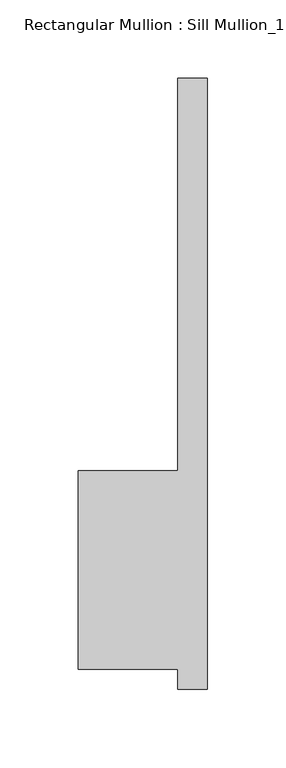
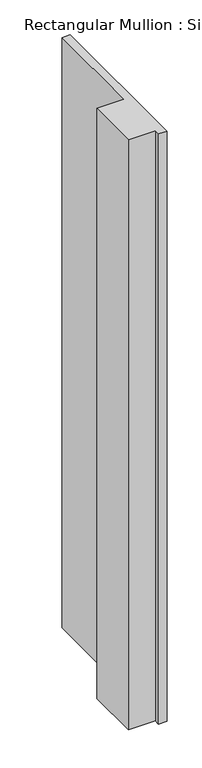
"""IFC4 building model written with IfcOpenShell, lengths in millimetres: member geometry."""

from ifc_helpers import new_model, si_unit, frame, origin, place, context, project, spatial, polyline, outline, extrude, source, transform, mapped, element, save


def member_a7c53eae(model_context):
    return source(origin(), model_context, "Body", "SweptSolid", [
        extrude(outline(polyline([(-82.55, 50.8), (-19.05, 50.8), (-19.05, 301.625), (0.0, 301.625), (0.0, -88.9), (-19.05, -88.9), (-19.05, -76.2), (-82.55, -76.2), (-82.55, 50.8)])), frame((0.0, 0.0, -1453.9463652), z_axis=(0.0, 0.0, 1.0), x_axis=(1.0, 0.0, 0.0)), (0.0, 0.0, 1.0), 1453.9463652),
    ])


if __name__ == "__main__":
    model = new_model("IFC4")
    model_context = context("Model", 3, world=origin())
    ifc_project = project(units=[si_unit("LENGTHUNIT", "METRE", prefix="MILLI")], contexts=[model_context])
    site = spatial("IfcSite", under=ifc_project)
    building = spatial("IfcBuilding", under=site)
    placement = place(None, origin())
    member_shape = member_a7c53eae(model_context)
    element("IfcMember", 1, ObjectType="Rectangular Mullion : Sill Mullion_15\" thick wall", at=placement, inside=building, context=model_context, shape_type="MappedRepresentation", body=[
        mapped(member_shape, transform((0.0, 0.0, 0.0), x_axis=(1.0, 0.0, 0.0), y_axis=(0.0, 1.0, 0.0), z_axis=(0.0, 0.0, 1.0))),
    ])
    save(model, "model.ifc")
